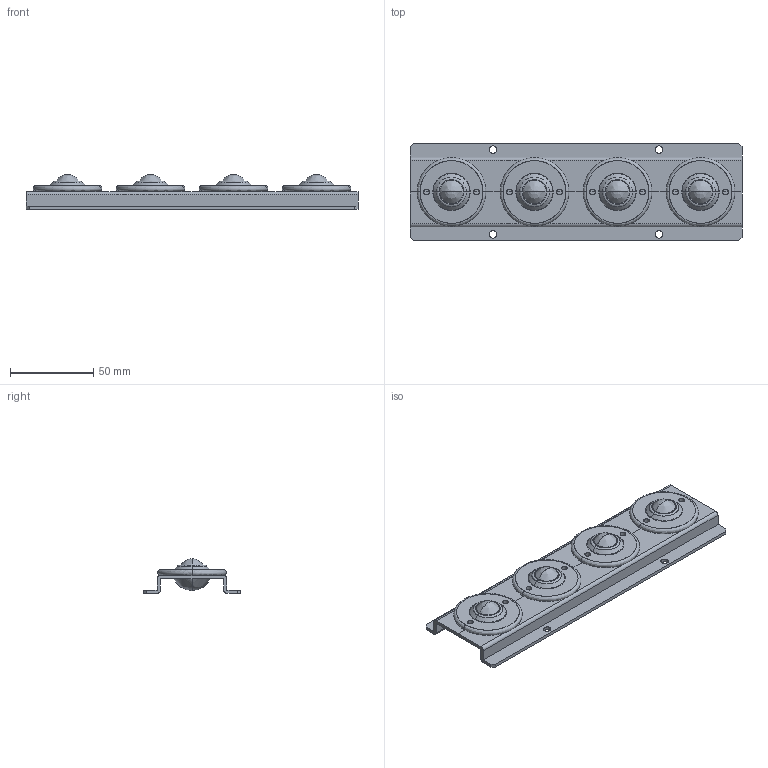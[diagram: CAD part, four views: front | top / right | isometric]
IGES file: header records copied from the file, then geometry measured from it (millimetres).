
Global section: file name: E:\UnigraphicsGraphicData\MISUMI_PRESS-PARTS\IGES\3d_goro-4_03806_r00.igs; native system: NX V5.0; preprocessor: UGS NX IGES V5.0; author: MISUMI; date: 20110105.160732; units: millimetre
Bounding box: 200 x 59 x 21 mm (x, y, z)
Surface area: 35159.6 mm2 (no closed solid volume)
Topology: 0 solids, 0 shells, 120 faces, 924 edges, 908 vertices
Faces by surface type: bspline 120
